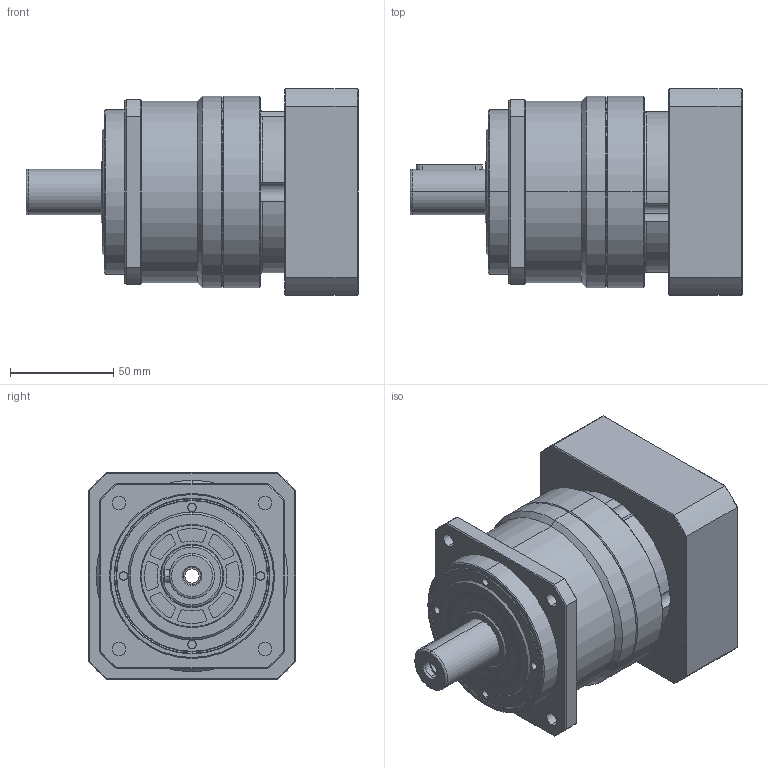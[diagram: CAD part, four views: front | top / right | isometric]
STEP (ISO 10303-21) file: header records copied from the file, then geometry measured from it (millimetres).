
FILE_DESCRIPTION (( 'STEP AP203' ), '1' );
FILE_NAME ('KS90-5-95-19-55-M8-115.STEP', '2020-08-12T02:13:47', ( '微软用户' ), ( '微软中国' ), 'SwSTEP 2.0', 'SolidWorks 2008', '' );
FILE_SCHEMA (( 'CONFIG_CONTROL_DESIGN' ));
Length unit declared in the file: millimetre
Products named in the file (1): KS90-5-95-19-55-M8-115
Bounding box: 161 x 100 x 100 mm (x, y, z)
Surface area: 98764.4 mm2 (no closed solid volume)
Topology: 0 solids, 24 shells, 432 faces, 1328 edges, 888 vertices
Faces by surface type: plane 165, cylinder 161, cone 71, torus 35
Entity records: 15239 total; most frequent: CARTESIAN_POINT 3180, DIRECTION 2694, ORIENTED_EDGE 2193, EDGE_CURVE 1316, AXIS2_PLACEMENT_3D 1040, VERTEX_POINT 888, VECTOR 614, LINE 614
